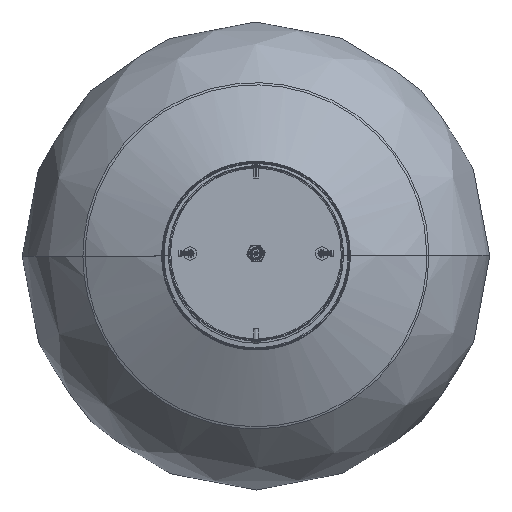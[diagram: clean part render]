
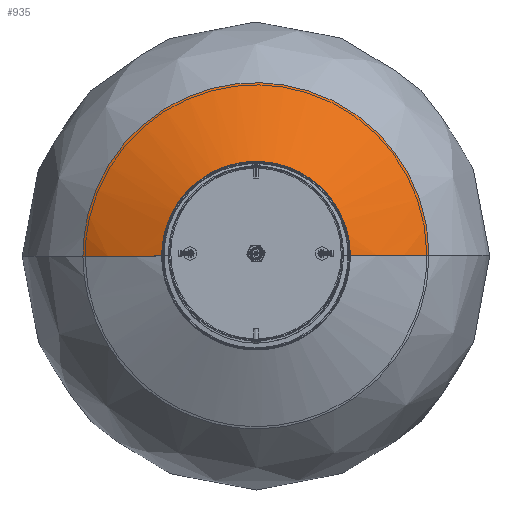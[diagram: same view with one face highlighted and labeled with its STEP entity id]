
A CAD part, top view. The second image highlights one B-rep face of the part: STEP entity #935.
In plain terms, the highlighted free-form (B-spline) face has degree [2, 2] with [9, 5] control points.
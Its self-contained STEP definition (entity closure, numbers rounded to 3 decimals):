
#935=ADVANCED_FACE('',(#1671),#11813,.T.);
#1671=FACE_OUTER_BOUND('',#2470,.T.);
#2470=EDGE_LOOP('',(#6179,#6180,#6181,#6182));
#6179=ORIENTED_EDGE('',*,*,#8079,.T.);
#6180=ORIENTED_EDGE('',*,*,#8073,.T.);
#6181=ORIENTED_EDGE('',*,*,#8081,.T.);
#6182=ORIENTED_EDGE('',*,*,#8074,.T.);
#8073=EDGE_CURVE('',#11135,#11136,#8908,.T.);
#8074=EDGE_CURVE('',#11137,#11134,#8909,.T.);
#8079=EDGE_CURVE('',#11134,#11135,#8914,.T.);
#8081=EDGE_CURVE('',#11136,#11137,#8916,.T.);
#8908=(
BOUNDED_CURVE()
B_SPLINE_CURVE(2,(#44281,#44282,#44283),.UNSPECIFIED.,.F.,.F.)
B_SPLINE_CURVE_WITH_KNOTS((3,3),(0.,71.588),.UNSPECIFIED.)
CURVE()
GEOMETRIC_REPRESENTATION_ITEM()
RATIONAL_B_SPLINE_CURVE((1.,0.989,1.))
REPRESENTATION_ITEM('')
);
#8909=(
BOUNDED_CURVE()
B_SPLINE_CURVE(2,(#44284,#44285,#44286),.UNSPECIFIED.,.F.,.F.)
B_SPLINE_CURVE_WITH_KNOTS((3,3),(0.,71.588),.UNSPECIFIED.)
CURVE()
GEOMETRIC_REPRESENTATION_ITEM()
RATIONAL_B_SPLINE_CURVE((1.,0.989,1.))
REPRESENTATION_ITEM('')
);
#8914=(
BOUNDED_CURVE()
B_SPLINE_CURVE(2,(#44307,#44308,#44309,#44310,#44311),.UNSPECIFIED.,.F.,
 .F.)
B_SPLINE_CURVE_WITH_KNOTS((3,2,3),(-235.619,-117.81,
0.),.UNSPECIFIED.)
CURVE()
GEOMETRIC_REPRESENTATION_ITEM()
RATIONAL_B_SPLINE_CURVE((1.,0.707,1.,0.707,1.))
REPRESENTATION_ITEM('')
);
#8916=(
BOUNDED_CURVE()
B_SPLINE_CURVE(2,(#44317,#44318,#44319,#44320,#44321),.UNSPECIFIED.,.F.,
 .F.)
B_SPLINE_CURVE_WITH_KNOTS((3,2,3),(-435.697,-217.849,
0.),.UNSPECIFIED.)
CURVE()
GEOMETRIC_REPRESENTATION_ITEM()
RATIONAL_B_SPLINE_CURVE((1.,0.707,1.,0.707,1.))
REPRESENTATION_ITEM('')
);
#11134=VERTEX_POINT('',#44224);
#11135=VERTEX_POINT('',#44225);
#11136=VERTEX_POINT('',#44226);
#11137=VERTEX_POINT('',#44227);
#11813=(
BOUNDED_SURFACE()
B_SPLINE_SURFACE(2,2,((#43723,#43724,#43725,#43726,#43727),(#43728,#43729,
#43730,#43731,#43732),(#43733,#43734,#43735,#43736,#43737),(#43738,#43739,
#43740,#43741,#43742),(#43743,#43744,#43745,#43746,#43747),(#43748,#43749,
#43750,#43751,#43752),(#43753,#43754,#43755,#43756,#43757),(#43758,#43759,
#43760,#43761,#43762),(#43763,#43764,#43765,#43766,#43767)),
 .UNSPECIFIED.,.T.,.F.,.F.)
B_SPLINE_SURFACE_WITH_KNOTS((3,2,2,2,3),(3,2,3),(0.,376.991,753.982,
1130.973,1507.964),(0.,376.991,753.982),
 .UNSPECIFIED.)
GEOMETRIC_REPRESENTATION_ITEM()
RATIONAL_B_SPLINE_SURFACE(((1.,0.707,1.,0.707,1.),
(0.707,0.5,0.707,0.5,0.707),(1.,0.707,
1.,0.707,1.),(0.707,0.5,0.707,0.5,0.707),
(1.,0.707,1.,0.707,1.),(0.707,0.5,0.707,
0.5,0.707),(1.,0.707,1.,0.707,1.),(0.707,
0.5,0.707,0.5,0.707),(1.,0.707,1.,0.707,
1.)))
REPRESENTATION_ITEM('')
SURFACE()
);
#43723=CARTESIAN_POINT('',(0.636,-905.847,-628.847));
#43724=CARTESIAN_POINT('',(-239.363,-906.483,-628.847));
#43725=CARTESIAN_POINT('',(-239.999,-666.484,-628.847));
#43726=CARTESIAN_POINT('',(-240.635,-426.485,-628.847));
#43727=CARTESIAN_POINT('',(-0.636,-425.848,-628.847));
#43728=CARTESIAN_POINT('',(0.636,-905.847,-628.847));
#43729=CARTESIAN_POINT('',(-239.363,-906.483,-388.847));
#43730=CARTESIAN_POINT('',(-239.999,-666.484,-388.847));
#43731=CARTESIAN_POINT('',(-240.635,-426.485,-388.847));
#43732=CARTESIAN_POINT('',(-0.636,-425.848,-628.847));
#43733=CARTESIAN_POINT('',(0.636,-905.847,-628.847));
#43734=CARTESIAN_POINT('',(0.636,-905.847,-388.847));
#43735=CARTESIAN_POINT('',(0.,-665.847,-388.847));
#43736=CARTESIAN_POINT('',(-0.636,-425.848,-388.847));
#43737=CARTESIAN_POINT('',(-0.636,-425.848,-628.847));
#43738=CARTESIAN_POINT('',(0.636,-905.847,-628.847));
#43739=CARTESIAN_POINT('',(240.635,-905.21,-388.847));
#43740=CARTESIAN_POINT('',(239.999,-665.211,-388.847));
#43741=CARTESIAN_POINT('',(239.363,-425.212,-388.847));
#43742=CARTESIAN_POINT('',(-0.636,-425.848,-628.847));
#43743=CARTESIAN_POINT('',(0.636,-905.847,-628.847));
#43744=CARTESIAN_POINT('',(240.635,-905.21,-628.847));
#43745=CARTESIAN_POINT('',(239.999,-665.211,-628.847));
#43746=CARTESIAN_POINT('',(239.363,-425.212,-628.847));
#43747=CARTESIAN_POINT('',(-0.636,-425.848,-628.847));
#43748=CARTESIAN_POINT('',(0.636,-905.847,-628.847));
#43749=CARTESIAN_POINT('',(240.635,-905.21,-868.847));
#43750=CARTESIAN_POINT('',(239.999,-665.211,-868.847));
#43751=CARTESIAN_POINT('',(239.363,-425.212,-868.847));
#43752=CARTESIAN_POINT('',(-0.636,-425.848,-628.847));
#43753=CARTESIAN_POINT('',(0.636,-905.847,-628.847));
#43754=CARTESIAN_POINT('',(0.636,-905.847,-868.847));
#43755=CARTESIAN_POINT('',(0.,-665.847,-868.847));
#43756=CARTESIAN_POINT('',(-0.636,-425.848,-868.847));
#43757=CARTESIAN_POINT('',(-0.636,-425.848,-628.847));
#43758=CARTESIAN_POINT('',(0.636,-905.847,-628.847));
#43759=CARTESIAN_POINT('',(-239.363,-906.483,-868.847));
#43760=CARTESIAN_POINT('',(-239.999,-666.484,-868.847));
#43761=CARTESIAN_POINT('',(-240.635,-426.485,-868.847));
#43762=CARTESIAN_POINT('',(-0.636,-425.848,-628.847));
#43763=CARTESIAN_POINT('',(0.636,-905.847,-628.847));
#43764=CARTESIAN_POINT('',(-239.363,-906.483,-628.847));
#43765=CARTESIAN_POINT('',(-239.999,-666.484,-628.847));
#43766=CARTESIAN_POINT('',(-240.635,-426.485,-628.847));
#43767=CARTESIAN_POINT('',(-0.636,-425.848,-628.847));
#44224=CARTESIAN_POINT('',(-75.,-666.046,-400.867));
#44225=CARTESIAN_POINT('',(75.,-665.649,-400.867));
#44226=CARTESIAN_POINT('',(138.686,-665.48,-432.975));
#44227=CARTESIAN_POINT('',(-138.686,-666.215,-432.975));
#44281=CARTESIAN_POINT('',(75.,-665.649,-400.867));
#44282=CARTESIAN_POINT('',(109.255,-665.558,-412.136));
#44283=CARTESIAN_POINT('',(138.686,-665.48,-432.975));
#44284=CARTESIAN_POINT('',(-138.686,-666.215,-432.975));
#44285=CARTESIAN_POINT('',(-109.255,-666.137,-412.136));
#44286=CARTESIAN_POINT('',(-75.,-666.046,-400.867));
#44307=CARTESIAN_POINT('',(-75.,-666.046,-400.867));
#44308=CARTESIAN_POINT('',(-75.199,-591.047,-400.867));
#44309=CARTESIAN_POINT('',(-0.199,-590.848,-400.867));
#44310=CARTESIAN_POINT('',(74.801,-590.649,-400.867));
#44311=CARTESIAN_POINT('',(75.,-665.649,-400.867));
#44317=CARTESIAN_POINT('',(138.686,-665.48,-432.975));
#44318=CARTESIAN_POINT('',(138.319,-526.794,-432.975));
#44319=CARTESIAN_POINT('',(-0.368,-527.161,-432.975));
#44320=CARTESIAN_POINT('',(-139.054,-527.529,-432.975));
#44321=CARTESIAN_POINT('',(-138.686,-666.215,-432.975));
